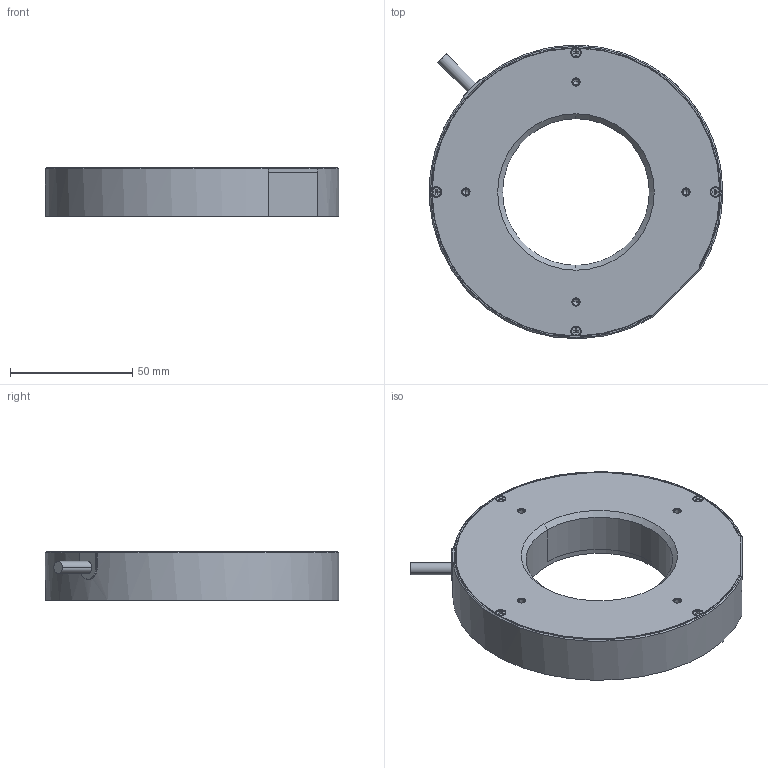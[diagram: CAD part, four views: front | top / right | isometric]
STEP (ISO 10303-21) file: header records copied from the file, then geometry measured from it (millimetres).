
FILE_DESCRIPTION((''),'2;1');
FILE_NAME('120-90','2024-03-29T17:48:35',('qiaoxuan5'),(''),'CREO PARAMETRIC BY PTC INC, 2020044','CREO PARAMETRIC BY PTC INC, 2020044','');
FILE_SCHEMA(('CONFIG_CONTROL_DESIGN'));
Length unit declared in the file: millimetre
Products named in the file (1): 120-90
Bounding box: 119.93 x 119.97 x 20 mm (x, y, z)
Volume: 166450 mm3; surface area: 38239.3 mm2
Topology: 1 solids, 37 shells, 605 faces, 1458 edges, 889 vertices
Faces by surface type: plane 292, cylinder 193, cone 94, torus 20, sphere 6
Entity records: 19782 total; most frequent: CARTESIAN_POINT 5773, DIRECTION 2975, ORIENTED_EDGE 2776, EDGE_CURVE 1428, AXIS2_PLACEMENT_3D 1101, VERTEX_POINT 889, VECTOR 773, LINE 773
